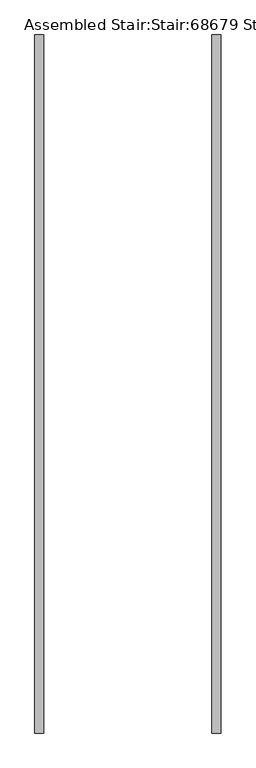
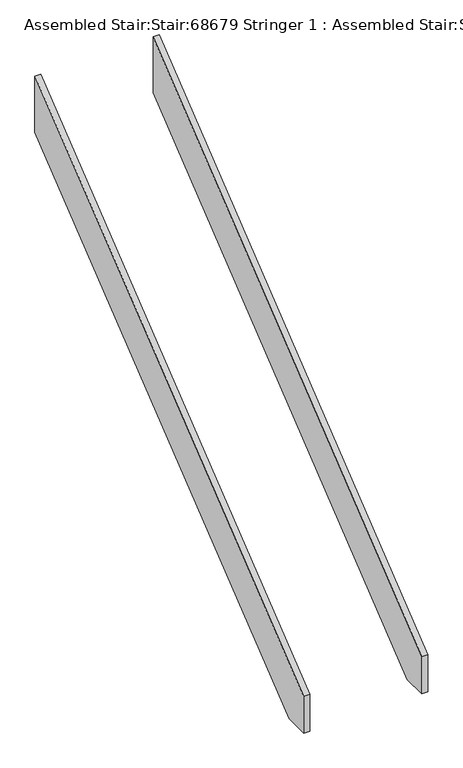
"""IFC4 building model written with IfcOpenShell, lengths in millimetres: stair geometry, Assembled Stair:Stair:68679 Stringer 1 : Assembled Stair:Stair:68679 Stringer 1."""

from ifc_helpers import new_model, si_unit, frame, origin, place, context, project, spatial, polyline, outline, extrude, source, transform, mapped, element, save


def assembled_stair_stair_68679_stringer_1_assembled_stair_stair_632ac695(model_context):
    return source(origin(), model_context, "Body", "SweptSolid", [
        extrude(outline(polyline([(-25134.8565809, 0.0), (-25324.6322236, 0.0), (-25324.6322236, 296.4603123), (-21804.6322236, 3119.989724), (-21804.6322236, 2671.3029604), (-25134.8565809, 0.0)])), frame((18199.8089026, 0.0, 0.0), z_axis=(1.0, 0.0, 0.0), x_axis=(0.0, 1.0, 0.0)), (0.0, 0.0, 1.0), 45.0),
        extrude(outline(polyline([(-25134.8565809, 0.0), (-25324.6322236, 0.0), (-25324.6322236, 296.4603123), (-21804.6322236, 3119.989724), (-21804.6322236, 2671.3029604), (-25134.8565809, 0.0)])), frame((17304.8089026, 0.0, 0.0), z_axis=(1.0, 0.0, 0.0), x_axis=(0.0, 1.0, 0.0)), (0.0, 0.0, 1.0), 45.0),
    ])


if __name__ == "__main__":
    model = new_model("IFC4")
    model_context = context("Model", 3, world=origin())
    ifc_project = project(units=[si_unit("LENGTHUNIT", "METRE", prefix="MILLI")], contexts=[model_context])
    site = spatial("IfcSite", under=ifc_project)
    building = spatial("IfcBuilding", under=site)
    placement = place(None, origin())
    assembled_stair_stair_68679_stringer_1_assembled_stair_stair_shape = assembled_stair_stair_68679_stringer_1_assembled_stair_stair_632ac695(model_context)
    element("IfcStair", 1, ObjectType="Assembled Stair:Stair:68679 Stringer 1 : Assembled Stair:Stair:68679 Stringer 1", at=placement, inside=building, context=model_context, shape_type="MappedRepresentation", body=[
        mapped(assembled_stair_stair_68679_stringer_1_assembled_stair_stair_shape, transform((0.0, 0.0, 0.0), x_axis=(1.0, 0.0, 0.0), y_axis=(0.0, 1.0, 0.0), z_axis=(0.0, 0.0, 1.0))),
    ])
    save(model, "model.ifc")
